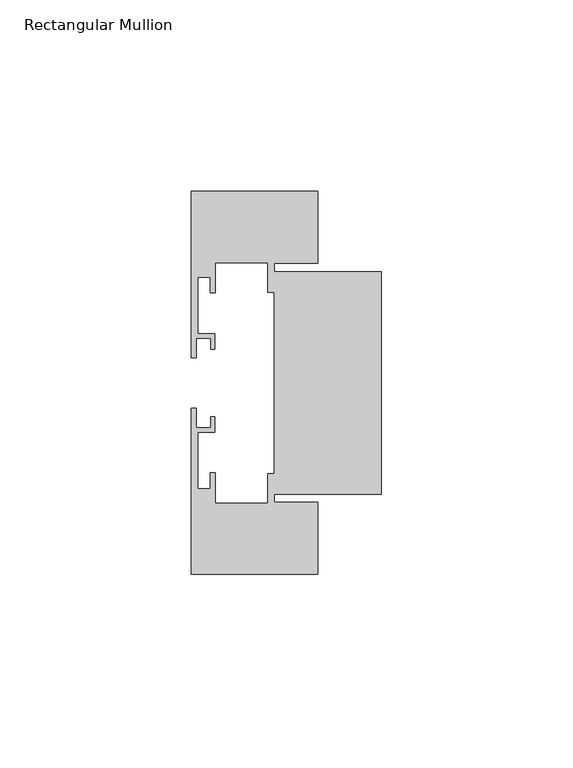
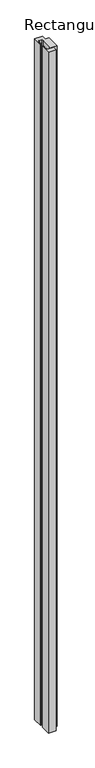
"""IFC4 building model written with IfcOpenShell, lengths in millimetres: member geometry, Rectangular Mullion : Frame-Teknion-OptosLP-Vertical_Trim_Border_1."""

from ifc_helpers import new_model, si_unit, frame, origin, place, context, project, spatial, polyline, outline, extrude, source, transform, mapped, element, save


def rectangular_mullion_2ec5124e(model_context):
    return source(origin(), model_context, "Body", "SweptSolid", [
        extrude(outline(polyline([(-16.5391931, 50.0127381), (-16.5391931, 31.2040403), (-27.969193, 31.2040403), (-27.969193, 28.9941402), (0.0, 28.9941402), (0.0, -28.9941402), (-27.969193, -28.9941402), (-27.969193, -31.2040403), (-16.5391931, -31.2040403), (-16.5391931, -50.0127381), (-49.559194, -50.0127381), (-49.559194, -6.5660402), (-48.2891941, -6.5660402), (-48.2891941, -11.64604), (-44.4791925, -11.64604), (-44.4791925, -8.8520406), (-43.4631922, -8.8520406), (-43.4631922, -12.9160398), (-47.9081937, -12.9160398), (-47.9081937, -27.6734393), (-44.6061933, -27.6734393), (-44.6061933, -23.5008848), (-43.3361934, -23.5008848), (-43.3361934, -31.356442), (-29.6201932, -31.356442), (-29.6201932, -23.7364407), (-27.969193, -23.7364407), (-27.969193, 23.7364407), (-29.6201932, 23.7364407), (-29.6201932, 31.356442), (-43.3361934, 31.356442), (-43.3361934, 23.5008848), (-44.6061933, 23.5008848), (-44.6061933, 27.6734393), (-47.9081937, 27.6734393), (-47.9081937, 12.9160398), (-43.4631922, 12.9160398), (-43.4631922, 8.8520406), (-44.4791925, 8.8520406), (-44.4791925, 11.64604), (-48.2891941, 11.64604), (-48.2891941, 6.5660402), (-49.559194, 6.5660402), (-49.559194, 50.0127381), (-16.5391931, 50.0127381)])), frame((0.0, 0.0, -3048.0), z_axis=(0.0, 0.0, 1.0), x_axis=(1.0, 0.0, 0.0)), (0.0, 0.0, 1.0), 3048.0),
    ])


if __name__ == "__main__":
    model = new_model("IFC4")
    model_context = context("Model", 3, world=origin())
    ifc_project = project(units=[si_unit("LENGTHUNIT", "METRE", prefix="MILLI")], contexts=[model_context])
    site = spatial("IfcSite", under=ifc_project)
    building = spatial("IfcBuilding", under=site)
    placement = place(None, origin())
    rectangular_mullion_shape = rectangular_mullion_2ec5124e(model_context)
    element("IfcMember", 1, ObjectType="Rectangular Mullion : Frame-Teknion-OptosLP-Vertical_Trim_Border_1", at=placement, inside=building, context=model_context, shape_type="MappedRepresentation", body=[
        mapped(rectangular_mullion_shape, transform((0.0, 0.0, 0.0), x_axis=(1.0, 0.0, 0.0), y_axis=(0.0, 1.0, 0.0), z_axis=(0.0, 0.0, 1.0))),
    ])
    save(model, "model.ifc")
